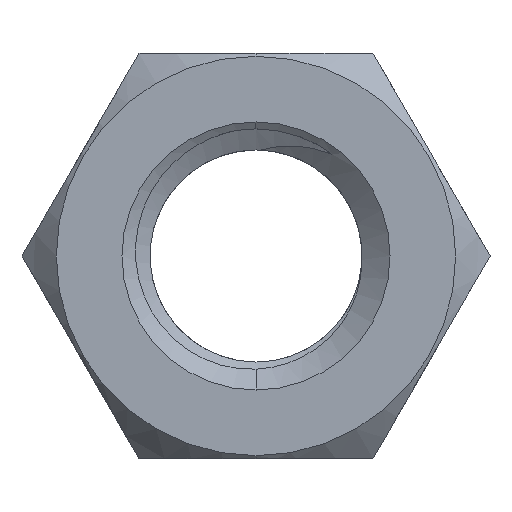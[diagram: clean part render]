
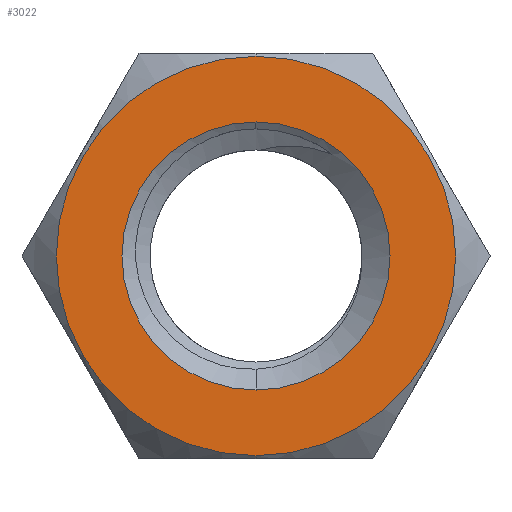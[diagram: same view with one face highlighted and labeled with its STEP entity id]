
A CAD part, front view. The second image highlights one B-rep face of the part: STEP entity #3022.
In plain terms, the highlighted planar face has unit normal (0, -1, 0).
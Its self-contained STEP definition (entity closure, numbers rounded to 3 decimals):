
#17 = ORIENTED_EDGE ( 'NONE', *, *, #2253, .T. ) ;
#98 = FACE_OUTER_BOUND ( 'NONE', #2585, .T. ) ;
#123 = AXIS2_PLACEMENT_3D ( 'NONE', #928, #1839, #1162 ) ;
#169 = CARTESIAN_POINT ( 'NONE',  ( 0., -3.25, -6.406 ) ) ;
#181 = CIRCLE ( 'NONE', #2038, 4.3 ) ;
#222 = CIRCLE ( 'NONE', #1977, 4.3 ) ;
#250 = EDGE_LOOP ( 'NONE', ( #1400, #2514 ) ) ;
#354 = DIRECTION ( 'NONE',  ( 0., 1., 0. ) ) ;
#736 = AXIS2_PLACEMENT_3D ( 'NONE', #1555, #354, #2924 ) ;
#928 = CARTESIAN_POINT ( 'NONE',  ( 0., -3.25, 0. ) ) ;
#1033 = CIRCLE ( 'NONE', #123, 6.406 ) ;
#1036 = DIRECTION ( 'NONE',  ( 0., 0., -1. ) ) ;
#1067 = PLANE ( 'NONE',  #736 ) ;
#1114 = VERTEX_POINT ( 'NONE', #169 ) ;
#1148 = DIRECTION ( 'NONE',  ( 0., 0., -1. ) ) ;
#1158 = VERTEX_POINT ( 'NONE', #1262 ) ;
#1162 = DIRECTION ( 'NONE',  ( 0., 0., -1. ) ) ;
#1205 = DIRECTION ( 'NONE',  ( 0., -1., 0. ) ) ;
#1262 = CARTESIAN_POINT ( 'NONE',  ( 0., -3.25, 4.3 ) ) ;
#1266 = CARTESIAN_POINT ( 'NONE',  ( 0., -3.25, 0. ) ) ;
#1359 = VERTEX_POINT ( 'NONE', #2646 ) ;
#1400 = ORIENTED_EDGE ( 'NONE', *, *, #2141, .F. ) ;
#1467 = EDGE_CURVE ( 'NONE', #2314, #1114, #1033, .T. ) ;
#1555 = CARTESIAN_POINT ( 'NONE',  ( 0., -3.25, 0. ) ) ;
#1572 = FACE_BOUND ( 'NONE', #250, .T. ) ;
#1669 = CARTESIAN_POINT ( 'NONE',  ( 0., -3.25, 0. ) ) ;
#1839 = DIRECTION ( 'NONE',  ( 0., -1., 0. ) ) ;
#1932 = CIRCLE ( 'NONE', #2229, 6.406 ) ;
#1977 = AXIS2_PLACEMENT_3D ( 'NONE', #2771, #2984, #2315 ) ;
#2038 = AXIS2_PLACEMENT_3D ( 'NONE', #1266, #2219, #1036 ) ;
#2141 = EDGE_CURVE ( 'NONE', #1158, #1359, #222, .T. ) ;
#2219 = DIRECTION ( 'NONE',  ( 0., -1., 0. ) ) ;
#2229 = AXIS2_PLACEMENT_3D ( 'NONE', #1669, #1205, #1148 ) ;
#2253 = EDGE_CURVE ( 'NONE', #1114, #2314, #1932, .T. ) ;
#2314 = VERTEX_POINT ( 'NONE', #2346 ) ;
#2315 = DIRECTION ( 'NONE',  ( 0., 0., -1. ) ) ;
#2346 = CARTESIAN_POINT ( 'NONE',  ( 0., -3.25, 6.406 ) ) ;
#2514 = ORIENTED_EDGE ( 'NONE', *, *, #3059, .F. ) ;
#2585 = EDGE_LOOP ( 'NONE', ( #2685, #17 ) ) ;
#2646 = CARTESIAN_POINT ( 'NONE',  ( 0., -3.25, -4.3 ) ) ;
#2685 = ORIENTED_EDGE ( 'NONE', *, *, #1467, .T. ) ;
#2771 = CARTESIAN_POINT ( 'NONE',  ( 0., -3.25, 0. ) ) ;
#2924 = DIRECTION ( 'NONE',  ( 0., 0., 1. ) ) ;
#2984 = DIRECTION ( 'NONE',  ( 0., -1., 0. ) ) ;
#3022 = ADVANCED_FACE ( 'NONE', ( #1572, #98 ), #1067, .F. ) ;
#3059 = EDGE_CURVE ( 'NONE', #1359, #1158, #181, .T. ) ;
